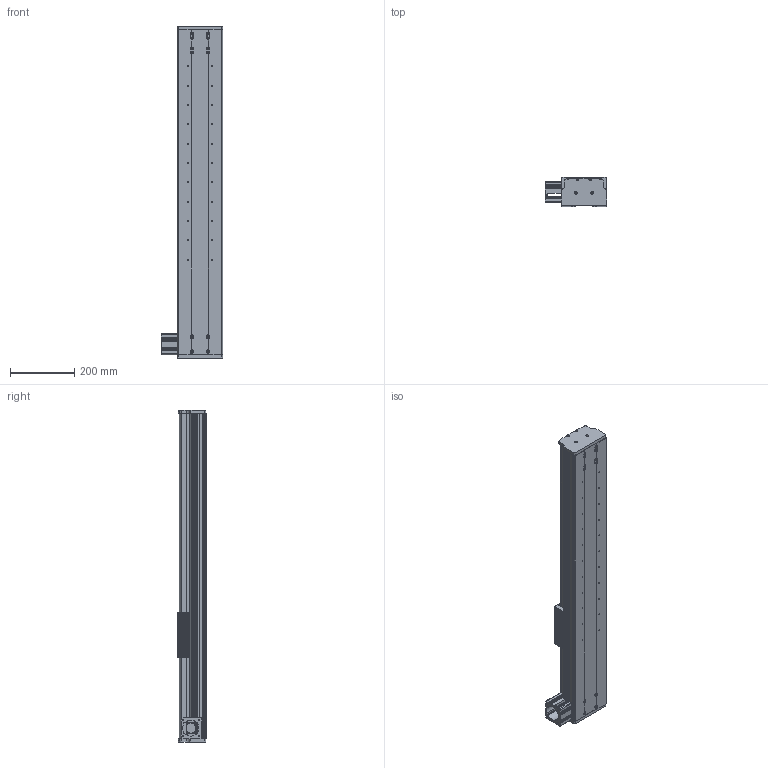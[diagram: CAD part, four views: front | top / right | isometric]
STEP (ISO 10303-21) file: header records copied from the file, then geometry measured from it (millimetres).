
FILE_DESCRIPTION (( 'STEP AP203' ), '1' );
FILE_NAME ('CF140B肮祭湍700俴最.STEP', '2020-06-13T02:04:31', ( 'Micorosoft' ), ( 'Micorosoft' ), 'SwSTEP 2.0', 'SolidWorks 2016', '' );
FILE_SCHEMA (( 'CONFIG_CONTROL_DESIGN' ));
Length unit declared in the file: millimetre
Products named in the file (11): 6060-3232源臏奪-植雄釱; 菁釱; 6060-3232源臏奪-萇儂釱; 15賑輸; CF140B肮祭湍700俴最; 15絳寢; CF140蹟譫釱; CF140賑雄啣; CF140裔啣; CF140萇儂啣; 6060-3232源臏奪-翋雄釱
Assembly tree (15 placements, depth 2):
  CF140B肮祭湍700俴最
    菁釱
    15賑輸  x4
    15絳寢  x2
    CF140蹟譫釱
    CF140賑雄啣
    CF140裔啣
    CF140萇儂啣  x2
    6060-3232源臏奪-翋雄釱
    6060-3232源臏奪-植雄釱
    6060-3232源臏奪-萇儂釱
Bounding box: 189.55 x 89.5 x 1030 mm (x, y, z)
Volume: 4685729.6 mm3; surface area: 1655373.6 mm2
Topology: 15 solids, 15 shells, 1688 faces, 4788 edges, 3130 vertices
Faces by surface type: cylinder 860, plane 760, cone 68
Entity records: 52285 total; most frequent: CARTESIAN_POINT 9850, DIRECTION 8823, ORIENTED_EDGE 8630, EDGE_CURVE 4315, AXIS2_PLACEMENT_3D 3110, VERTEX_POINT 2864, LINE 2603, VECTOR 2603
